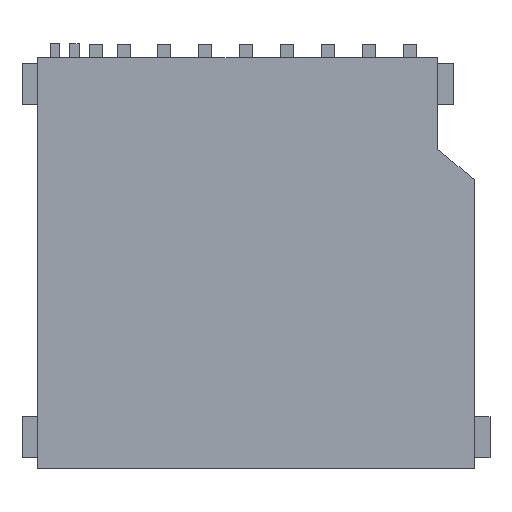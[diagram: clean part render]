
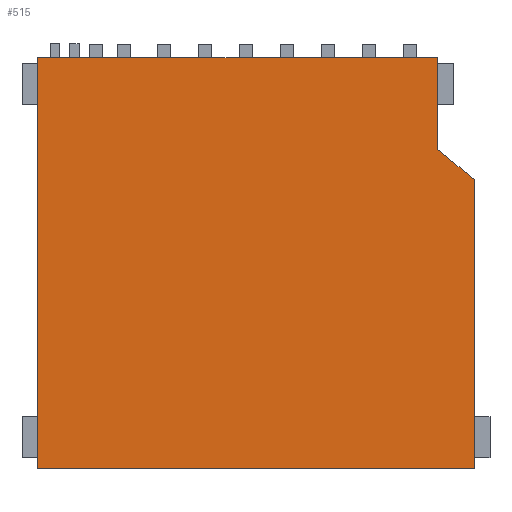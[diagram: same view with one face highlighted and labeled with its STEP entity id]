
A CAD part, top view. The second image highlights one B-rep face of the part: STEP entity #515.
In plain terms, the highlighted planar face has unit normal (0, 0, 1).
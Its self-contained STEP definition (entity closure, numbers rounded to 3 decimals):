
#47 = VERTEX_POINT('',#48);
#48 = CARTESIAN_POINT('',(-2.6,24.475,3.3));
#55 = PLANE('',#56);
#56 = AXIS2_PLACEMENT_3D('',#57,#58,#59);
#57 = CARTESIAN_POINT('',(-2.6,24.475,0.));
#58 = DIRECTION('',(1.,0.,-0.));
#59 = DIRECTION('',(0.,-1.,0.));
#67 = PLANE('',#68);
#68 = AXIS2_PLACEMENT_3D('',#69,#70,#71);
#69 = CARTESIAN_POINT('',(-26.95,24.475,0.));
#70 = DIRECTION('',(0.,1.,0.));
#71 = DIRECTION('',(1.,0.,0.));
#79 = EDGE_CURVE('',#47,#80,#82,.T.);
#80 = VERTEX_POINT('',#81);
#81 = CARTESIAN_POINT('',(-2.6,18.915,3.3));
#82 = SURFACE_CURVE('',#83,(#87,#94),.PCURVE_S1.);
#83 = LINE('',#84,#85);
#84 = CARTESIAN_POINT('',(-2.6,24.475,3.3));
#85 = VECTOR('',#86,1.);
#86 = DIRECTION('',(0.,-1.,0.));
#87 = PCURVE('',#55,#88);
#88 = DEFINITIONAL_REPRESENTATION('',(#89),#93);
#89 = LINE('',#90,#91);
#90 = CARTESIAN_POINT('',(0.,-3.3));
#91 = VECTOR('',#92,1.);
#92 = DIRECTION('',(1.,0.));
#93 = ( GEOMETRIC_REPRESENTATION_CONTEXT(2) 
PARAMETRIC_REPRESENTATION_CONTEXT() REPRESENTATION_CONTEXT('2D SPACE',''
  ) );
#94 = PCURVE('',#95,#100);
#95 = PLANE('',#96);
#96 = AXIS2_PLACEMENT_3D('',#97,#98,#99);
#97 = CARTESIAN_POINT('',(-13.935,11.762,3.3));
#98 = DIRECTION('',(0.,0.,-1.));
#99 = DIRECTION('',(0.,-1.,0.));
#100 = DEFINITIONAL_REPRESENTATION('',(#101),#105);
#101 = LINE('',#102,#103);
#102 = CARTESIAN_POINT('',(-12.713,-11.335));
#103 = VECTOR('',#104,1.);
#104 = DIRECTION('',(1.,0.));
#105 = ( GEOMETRIC_REPRESENTATION_CONTEXT(2) 
PARAMETRIC_REPRESENTATION_CONTEXT() REPRESENTATION_CONTEXT('2D SPACE',''
  ) );
#123 = PLANE('',#124);
#124 = AXIS2_PLACEMENT_3D('',#125,#126,#127);
#125 = CARTESIAN_POINT('',(-2.6,18.915,0.));
#126 = DIRECTION('',(0.637,0.771,-0.));
#127 = DIRECTION('',(0.771,-0.637,0.));
#165 = EDGE_CURVE('',#80,#166,#168,.T.);
#166 = VERTEX_POINT('',#167);
#167 = CARTESIAN_POINT('',(-0.35,17.055,3.3));
#168 = SURFACE_CURVE('',#169,(#173,#180),.PCURVE_S1.);
#169 = LINE('',#170,#171);
#170 = CARTESIAN_POINT('',(-2.6,18.915,3.3));
#171 = VECTOR('',#172,1.);
#172 = DIRECTION('',(0.771,-0.637,0.));
#173 = PCURVE('',#123,#174);
#174 = DEFINITIONAL_REPRESENTATION('',(#175),#179);
#175 = LINE('',#176,#177);
#176 = CARTESIAN_POINT('',(0.,-3.3));
#177 = VECTOR('',#178,1.);
#178 = DIRECTION('',(1.,0.));
#179 = ( GEOMETRIC_REPRESENTATION_CONTEXT(2) 
PARAMETRIC_REPRESENTATION_CONTEXT() REPRESENTATION_CONTEXT('2D SPACE',''
  ) );
#180 = PCURVE('',#95,#181);
#181 = DEFINITIONAL_REPRESENTATION('',(#182),#186);
#182 = LINE('',#183,#184);
#183 = CARTESIAN_POINT('',(-7.153,-11.335));
#184 = VECTOR('',#185,1.);
#185 = DIRECTION('',(0.637,-0.771));
#186 = ( GEOMETRIC_REPRESENTATION_CONTEXT(2) 
PARAMETRIC_REPRESENTATION_CONTEXT() REPRESENTATION_CONTEXT('2D SPACE',''
  ) );
#204 = PLANE('',#205);
#205 = AXIS2_PLACEMENT_3D('',#206,#207,#208);
#206 = CARTESIAN_POINT('',(-0.35,17.055,0.));
#207 = DIRECTION('',(1.,0.,-0.));
#208 = DIRECTION('',(0.,-1.,0.));
#241 = EDGE_CURVE('',#166,#242,#244,.T.);
#242 = VERTEX_POINT('',#243);
#243 = CARTESIAN_POINT('',(-0.35,-0.525,3.3));
#244 = SURFACE_CURVE('',#245,(#249,#256),.PCURVE_S1.);
#245 = LINE('',#246,#247);
#246 = CARTESIAN_POINT('',(-0.35,17.055,3.3));
#247 = VECTOR('',#248,1.);
#248 = DIRECTION('',(0.,-1.,0.));
#249 = PCURVE('',#204,#250);
#250 = DEFINITIONAL_REPRESENTATION('',(#251),#255);
#251 = LINE('',#252,#253);
#252 = CARTESIAN_POINT('',(0.,-3.3));
#253 = VECTOR('',#254,1.);
#254 = DIRECTION('',(1.,0.));
#255 = ( GEOMETRIC_REPRESENTATION_CONTEXT(2) 
PARAMETRIC_REPRESENTATION_CONTEXT() REPRESENTATION_CONTEXT('2D SPACE',''
  ) );
#256 = PCURVE('',#95,#257);
#257 = DEFINITIONAL_REPRESENTATION('',(#258),#262);
#258 = LINE('',#259,#260);
#259 = CARTESIAN_POINT('',(-5.293,-13.585));
#260 = VECTOR('',#261,1.);
#261 = DIRECTION('',(1.,0.));
#262 = ( GEOMETRIC_REPRESENTATION_CONTEXT(2) 
PARAMETRIC_REPRESENTATION_CONTEXT() REPRESENTATION_CONTEXT('2D SPACE',''
  ) );
#280 = PLANE('',#281);
#281 = AXIS2_PLACEMENT_3D('',#282,#283,#284);
#282 = CARTESIAN_POINT('',(-0.35,-0.525,0.));
#283 = DIRECTION('',(0.,-1.,0.));
#284 = DIRECTION('',(-1.,0.,0.));
#317 = EDGE_CURVE('',#242,#318,#320,.T.);
#318 = VERTEX_POINT('',#319);
#319 = CARTESIAN_POINT('',(-26.95,-0.525,3.3));
#320 = SURFACE_CURVE('',#321,(#325,#332),.PCURVE_S1.);
#321 = LINE('',#322,#323);
#322 = CARTESIAN_POINT('',(-0.35,-0.525,3.3));
#323 = VECTOR('',#324,1.);
#324 = DIRECTION('',(-1.,0.,0.));
#325 = PCURVE('',#280,#326);
#326 = DEFINITIONAL_REPRESENTATION('',(#327),#331);
#327 = LINE('',#328,#329);
#328 = CARTESIAN_POINT('',(0.,-3.3));
#329 = VECTOR('',#330,1.);
#330 = DIRECTION('',(1.,0.));
#331 = ( GEOMETRIC_REPRESENTATION_CONTEXT(2) 
PARAMETRIC_REPRESENTATION_CONTEXT() REPRESENTATION_CONTEXT('2D SPACE',''
  ) );
#332 = PCURVE('',#95,#333);
#333 = DEFINITIONAL_REPRESENTATION('',(#334),#338);
#334 = LINE('',#335,#336);
#335 = CARTESIAN_POINT('',(12.287,-13.585));
#336 = VECTOR('',#337,1.);
#337 = DIRECTION('',(0.,1.));
#338 = ( GEOMETRIC_REPRESENTATION_CONTEXT(2) 
PARAMETRIC_REPRESENTATION_CONTEXT() REPRESENTATION_CONTEXT('2D SPACE',''
  ) );
#356 = PLANE('',#357);
#357 = AXIS2_PLACEMENT_3D('',#358,#359,#360);
#358 = CARTESIAN_POINT('',(-26.95,-0.525,0.));
#359 = DIRECTION('',(-1.,0.,0.));
#360 = DIRECTION('',(0.,1.,0.));
#393 = EDGE_CURVE('',#318,#394,#396,.T.);
#394 = VERTEX_POINT('',#395);
#395 = CARTESIAN_POINT('',(-26.95,24.475,3.3));
#396 = SURFACE_CURVE('',#397,(#401,#408),.PCURVE_S1.);
#397 = LINE('',#398,#399);
#398 = CARTESIAN_POINT('',(-26.95,-0.525,3.3));
#399 = VECTOR('',#400,1.);
#400 = DIRECTION('',(0.,1.,0.));
#401 = PCURVE('',#356,#402);
#402 = DEFINITIONAL_REPRESENTATION('',(#403),#407);
#403 = LINE('',#404,#405);
#404 = CARTESIAN_POINT('',(0.,-3.3));
#405 = VECTOR('',#406,1.);
#406 = DIRECTION('',(1.,0.));
#407 = ( GEOMETRIC_REPRESENTATION_CONTEXT(2) 
PARAMETRIC_REPRESENTATION_CONTEXT() REPRESENTATION_CONTEXT('2D SPACE',''
  ) );
#408 = PCURVE('',#95,#409);
#409 = DEFINITIONAL_REPRESENTATION('',(#410),#414);
#410 = LINE('',#411,#412);
#411 = CARTESIAN_POINT('',(12.287,13.015));
#412 = VECTOR('',#413,1.);
#413 = DIRECTION('',(-1.,0.));
#414 = ( GEOMETRIC_REPRESENTATION_CONTEXT(2) 
PARAMETRIC_REPRESENTATION_CONTEXT() REPRESENTATION_CONTEXT('2D SPACE',''
  ) );
#464 = EDGE_CURVE('',#394,#47,#465,.T.);
#465 = SURFACE_CURVE('',#466,(#470,#477),.PCURVE_S1.);
#466 = LINE('',#467,#468);
#467 = CARTESIAN_POINT('',(-26.95,24.475,3.3));
#468 = VECTOR('',#469,1.);
#469 = DIRECTION('',(1.,0.,0.));
#470 = PCURVE('',#67,#471);
#471 = DEFINITIONAL_REPRESENTATION('',(#472),#476);
#472 = LINE('',#473,#474);
#473 = CARTESIAN_POINT('',(0.,-3.3));
#474 = VECTOR('',#475,1.);
#475 = DIRECTION('',(1.,0.));
#476 = ( GEOMETRIC_REPRESENTATION_CONTEXT(2) 
PARAMETRIC_REPRESENTATION_CONTEXT() REPRESENTATION_CONTEXT('2D SPACE',''
  ) );
#477 = PCURVE('',#95,#478);
#478 = DEFINITIONAL_REPRESENTATION('',(#479),#483);
#479 = LINE('',#480,#481);
#480 = CARTESIAN_POINT('',(-12.713,13.015));
#481 = VECTOR('',#482,1.);
#482 = DIRECTION('',(0.,-1.));
#483 = ( GEOMETRIC_REPRESENTATION_CONTEXT(2) 
PARAMETRIC_REPRESENTATION_CONTEXT() REPRESENTATION_CONTEXT('2D SPACE',''
  ) );
#515 = ADVANCED_FACE('',(#516),#95,.F.);
#516 = FACE_BOUND('',#517,.F.);
#517 = EDGE_LOOP('',(#518,#519,#520,#521,#522,#523));
#518 = ORIENTED_EDGE('',*,*,#79,.T.);
#519 = ORIENTED_EDGE('',*,*,#165,.T.);
#520 = ORIENTED_EDGE('',*,*,#241,.T.);
#521 = ORIENTED_EDGE('',*,*,#317,.T.);
#522 = ORIENTED_EDGE('',*,*,#393,.T.);
#523 = ORIENTED_EDGE('',*,*,#464,.T.);
